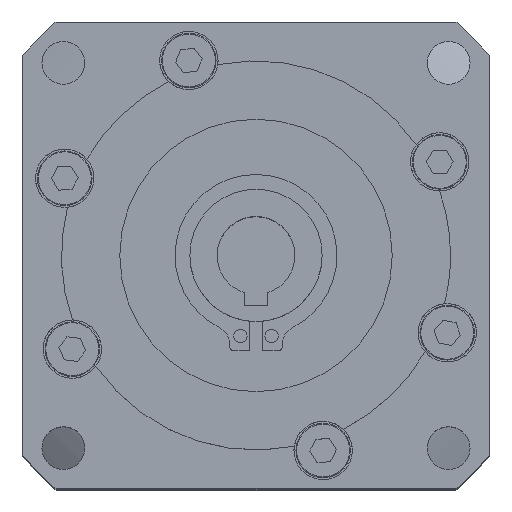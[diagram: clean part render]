
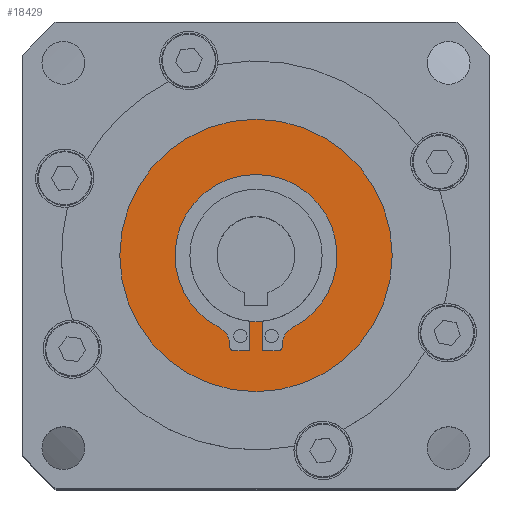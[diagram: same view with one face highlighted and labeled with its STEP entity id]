
A CAD part, top view. The second image highlights one B-rep face of the part: STEP entity #18429.
In plain terms, the highlighted planar face has unit normal (0, 0, 1).
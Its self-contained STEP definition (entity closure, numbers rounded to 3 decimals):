
#9 = ORIENTED_EDGE ( 'NONE', *, *, #8610, .F. ) ;
#18 = ORIENTED_EDGE ( 'NONE', *, *, #7783, .F. ) ;
#27 = DIRECTION ( 'NONE',  ( 0., 0., 1. ) ) ;
#68 = AXIS2_PLACEMENT_3D ( 'NONE', #1878, #12616, #3425 ) ;
#617 = VECTOR ( 'NONE', #19488, 1000. ) ;
#818 = DIRECTION ( 'NONE',  ( 0., 0., 1. ) ) ;
#985 = DIRECTION ( 'NONE',  ( 0., 0., 1. ) ) ;
#1069 = LINE ( 'NONE', #13361, #617 ) ;
#1102 = CARTESIAN_POINT ( 'NONE',  ( 0., 0., -1. ) ) ;
#1149 = VERTEX_POINT ( 'NONE', #12689 ) ;
#1567 = CIRCLE ( 'NONE', #19107, 0.5 ) ;
#1878 = CARTESIAN_POINT ( 'NONE',  ( 0., 0., -1. ) ) ;
#2373 = CARTESIAN_POINT ( 'NONE',  ( 5.85, -11.497, -1. ) ) ;
#2517 = AXIS2_PLACEMENT_3D ( 'NONE', #16343, #7184, #17911 ) ;
#2582 = CARTESIAN_POINT ( 'NONE',  ( -5.85, -11.497, -1. ) ) ;
#2653 = DIRECTION ( 'NONE',  ( 1., 0., 0. ) ) ;
#2786 = CARTESIAN_POINT ( 'NONE',  ( 0., -12.257, -1. ) ) ;
#3139 = VERTEX_POINT ( 'NONE', #6585 ) ;
#3402 = VERTEX_POINT ( 'NONE', #12701 ) ;
#3425 = DIRECTION ( 'NONE',  ( -1., 0., 0. ) ) ;
#3532 = EDGE_CURVE ( 'NONE', #1149, #15772, #12658, .T. ) ;
#3911 = DIRECTION ( 'NONE',  ( -1., 0., 0. ) ) ;
#3978 = ORIENTED_EDGE ( 'NONE', *, *, #15447, .F. ) ;
#4117 = DIRECTION ( 'NONE',  ( -1., 0., 0. ) ) ;
#4308 = AXIS2_PLACEMENT_3D ( 'NONE', #4531, #15261, #6060 ) ;
#4326 = DIRECTION ( 'NONE',  ( 1., 0., 0. ) ) ;
#4531 = CARTESIAN_POINT ( 'NONE',  ( 0., 0., -1. ) ) ;
#4656 = DIRECTION ( 'NONE',  ( 0., 1., 0. ) ) ;
#5046 = CARTESIAN_POINT ( 'NONE',  ( -2.85, -12.257, -1. ) ) ;
#5153 = CIRCLE ( 'NONE', #4308, 10.4 ) ;
#5351 = EDGE_CURVE ( 'NONE', #5693, #6674, #15469, .T. ) ;
#5693 = VERTEX_POINT ( 'NONE', #8606 ) ;
#5854 = LINE ( 'NONE', #9240, #17634 ) ;
#5874 = LINE ( 'NONE', #15083, #13564 ) ;
#5961 = ORIENTED_EDGE ( 'NONE', *, *, #16372, .F. ) ;
#6060 = DIRECTION ( 'NONE',  ( -1., 0., 0. ) ) ;
#6239 = CARTESIAN_POINT ( 'NONE',  ( 3.35, -11.757, -1. ) ) ;
#6282 = ORIENTED_EDGE ( 'NONE', *, *, #5351, .T. ) ;
#6407 = CARTESIAN_POINT ( 'NONE',  ( 3.35, -11.497, -1. ) ) ;
#6433 = ORIENTED_EDGE ( 'NONE', *, *, #7359, .F. ) ;
#6585 = CARTESIAN_POINT ( 'NONE',  ( 4.716, -9.269, -1. ) ) ;
#6674 = VERTEX_POINT ( 'NONE', #18399 ) ;
#6683 = CARTESIAN_POINT ( 'NONE',  ( -3.35, 0., -1. ) ) ;
#6903 = DIRECTION ( 'NONE',  ( 0., 0., 1. ) ) ;
#6918 = AXIS2_PLACEMENT_3D ( 'NONE', #16061, #6903, #17608 ) ;
#7135 = CARTESIAN_POINT ( 'NONE',  ( -0.85, -12.257, -1. ) ) ;
#7184 = DIRECTION ( 'NONE',  ( 0., 0., -1. ) ) ;
#7359 = EDGE_CURVE ( 'NONE', #14929, #17015, #10741, .T. ) ;
#7438 = DIRECTION ( 'NONE',  ( 1., 0., 0. ) ) ;
#7551 = LINE ( 'NONE', #2786, #15216 ) ;
#7678 = VERTEX_POINT ( 'NONE', #11802 ) ;
#7701 = CARTESIAN_POINT ( 'NONE',  ( -0.85, 0., -1. ) ) ;
#7783 = EDGE_CURVE ( 'NONE', #3402, #13556, #5874, .T. ) ;
#8077 = CARTESIAN_POINT ( 'NONE',  ( -10.4, 0., -1. ) ) ;
#8126 = CARTESIAN_POINT ( 'NONE',  ( -0.85, -8.457, -1. ) ) ;
#8200 = EDGE_CURVE ( 'NONE', #13556, #16885, #1567, .T. ) ;
#8323 = EDGE_CURVE ( 'NONE', #17015, #11086, #5153, .T. ) ;
#8477 = VERTEX_POINT ( 'NONE', #6407 ) ;
#8606 = CARTESIAN_POINT ( 'NONE',  ( -17.5, 0., -1. ) ) ;
#8610 = EDGE_CURVE ( 'NONE', #16885, #8477, #5854, .T. ) ;
#8639 = CARTESIAN_POINT ( 'NONE',  ( 2.85, -12.257, -1. ) ) ;
#8731 = DIRECTION ( 'NONE',  ( 0., 0., 1. ) ) ;
#8947 = ORIENTED_EDGE ( 'NONE', *, *, #19546, .F. ) ;
#9144 = CARTESIAN_POINT ( 'NONE',  ( -4.716, -9.269, -1. ) ) ;
#9239 = CARTESIAN_POINT ( 'NONE',  ( 0., 0., -1. ) ) ;
#9240 = CARTESIAN_POINT ( 'NONE',  ( 3.35, 0., -1. ) ) ;
#9335 = FACE_BOUND ( 'NONE', #16759, .T. ) ;
#9383 = CARTESIAN_POINT ( 'NONE',  ( 0.85, -8.457, -1. ) ) ;
#9430 = EDGE_CURVE ( 'NONE', #3139, #14929, #19775, .T. ) ;
#9629 = AXIS2_PLACEMENT_3D ( 'NONE', #1102, #11840, #2653 ) ;
#9644 = AXIS2_PLACEMENT_3D ( 'NONE', #2582, #13296, #4117 ) ;
#9818 = FACE_OUTER_BOUND ( 'NONE', #13134, .T. ) ;
#10007 = CARTESIAN_POINT ( 'NONE',  ( 10.4, 0., -1. ) ) ;
#10048 = CARTESIAN_POINT ( 'NONE',  ( -2.85, -11.757, -1. ) ) ;
#10214 = CARTESIAN_POINT ( 'NONE',  ( 0., 0., -1. ) ) ;
#10310 = AXIS2_PLACEMENT_3D ( 'NONE', #10214, #985, #11727 ) ;
#10363 = AXIS2_PLACEMENT_3D ( 'NONE', #2373, #13099, #3911 ) ;
#10741 = CIRCLE ( 'NONE', #17149, 10.4 ) ;
#10773 = DIRECTION ( 'NONE',  ( -1., 0., 0. ) ) ;
#11086 = VERTEX_POINT ( 'NONE', #9144 ) ;
#11570 = DIRECTION ( 'NONE',  ( -1., 0., 0. ) ) ;
#11727 = DIRECTION ( 'NONE',  ( 1., 0., 0. ) ) ;
#11802 = CARTESIAN_POINT ( 'NONE',  ( -3.35, -11.497, -1. ) ) ;
#11840 = DIRECTION ( 'NONE',  ( 0., 0., 1. ) ) ;
#12159 = ORIENTED_EDGE ( 'NONE', *, *, #8200, .F. ) ;
#12437 = VECTOR ( 'NONE', #17405, 1000. ) ;
#12477 = ORIENTED_EDGE ( 'NONE', *, *, #12553, .T. ) ;
#12553 = EDGE_CURVE ( 'NONE', #6674, #5693, #17171, .T. ) ;
#12616 = DIRECTION ( 'NONE',  ( 0., 0., 1. ) ) ;
#12658 = CIRCLE ( 'NONE', #15977, 0.5 ) ;
#12689 = CARTESIAN_POINT ( 'NONE',  ( -3.35, -11.757, -1. ) ) ;
#12701 = CARTESIAN_POINT ( 'NONE',  ( 0.85, -12.257, -1. ) ) ;
#12912 = LINE ( 'NONE', #6683, #12437 ) ;
#13053 = EDGE_CURVE ( 'NONE', #16305, #3402, #1069, .T. ) ;
#13099 = DIRECTION ( 'NONE',  ( 0., 0., -1. ) ) ;
#13134 = EDGE_LOOP ( 'NONE', ( #12477, #6282 ) ) ;
#13270 = PLANE ( 'NONE',  #2517 ) ;
#13296 = DIRECTION ( 'NONE',  ( 0., 0., -1. ) ) ;
#13361 = CARTESIAN_POINT ( 'NONE',  ( 0.85, 0., -1. ) ) ;
#13556 = VERTEX_POINT ( 'NONE', #8639 ) ;
#13564 = VECTOR ( 'NONE', #7438, 1000. ) ;
#13776 = VECTOR ( 'NONE', #4656, 1000. ) ;
#14554 = ORIENTED_EDGE ( 'NONE', *, *, #3532, .F. ) ;
#14681 = ORIENTED_EDGE ( 'NONE', *, *, #17893, .F. ) ;
#14808 = VERTEX_POINT ( 'NONE', #8126 ) ;
#14929 = VERTEX_POINT ( 'NONE', #10007 ) ;
#15083 = CARTESIAN_POINT ( 'NONE',  ( 0., -12.257, -1. ) ) ;
#15216 = VECTOR ( 'NONE', #4326, 1000. ) ;
#15261 = DIRECTION ( 'NONE',  ( 0., 0., 1. ) ) ;
#15334 = ORIENTED_EDGE ( 'NONE', *, *, #16532, .F. ) ;
#15447 = EDGE_CURVE ( 'NONE', #15772, #16014, #7551, .T. ) ;
#15469 = CIRCLE ( 'NONE', #9629, 17.5 ) ;
#15591 = EDGE_CURVE ( 'NONE', #16014, #14808, #18349, .T. ) ;
#15772 = VERTEX_POINT ( 'NONE', #5046 ) ;
#15898 = CIRCLE ( 'NONE', #10363, 2.5 ) ;
#15977 = AXIS2_PLACEMENT_3D ( 'NONE', #10048, #818, #11570 ) ;
#16014 = VERTEX_POINT ( 'NONE', #7135 ) ;
#16061 = CARTESIAN_POINT ( 'NONE',  ( 0., 0., -1. ) ) ;
#16305 = VERTEX_POINT ( 'NONE', #9383 ) ;
#16343 = CARTESIAN_POINT ( 'NONE',  ( 0., 0., -1. ) ) ;
#16372 = EDGE_CURVE ( 'NONE', #14808, #16305, #17358, .T. ) ;
#16532 = EDGE_CURVE ( 'NONE', #8477, #3139, #15898, .T. ) ;
#16759 = EDGE_LOOP ( 'NONE', ( #14554, #14681, #8947, #19473, #6433, #18609, #15334, #9, #12159, #18, #17966, #5961, #18033, #3978 ) ) ;
#16837 = DIRECTION ( 'NONE',  ( 0., 1., 0. ) ) ;
#16885 = VERTEX_POINT ( 'NONE', #6239 ) ;
#17015 = VERTEX_POINT ( 'NONE', #8077 ) ;
#17149 = AXIS2_PLACEMENT_3D ( 'NONE', #9239, #27, #10773 ) ;
#17171 = CIRCLE ( 'NONE', #10310, 17.5 ) ;
#17358 = CIRCLE ( 'NONE', #68, 8.5 ) ;
#17405 = DIRECTION ( 'NONE',  ( 0., -1., 0. ) ) ;
#17608 = DIRECTION ( 'NONE',  ( -1., 0., 0. ) ) ;
#17634 = VECTOR ( 'NONE', #16837, 1000. ) ;
#17882 = CARTESIAN_POINT ( 'NONE',  ( 2.85, -11.757, -1. ) ) ;
#17893 = EDGE_CURVE ( 'NONE', #7678, #1149, #12912, .T. ) ;
#17911 = DIRECTION ( 'NONE',  ( -1., 0., 0. ) ) ;
#17966 = ORIENTED_EDGE ( 'NONE', *, *, #13053, .F. ) ;
#18033 = ORIENTED_EDGE ( 'NONE', *, *, #15591, .F. ) ;
#18349 = LINE ( 'NONE', #7701, #13776 ) ;
#18399 = CARTESIAN_POINT ( 'NONE',  ( 17.5, 0., -1. ) ) ;
#18429 = ADVANCED_FACE ( 'NONE', ( #9818, #9335 ), #13270, .F. ) ;
#18609 = ORIENTED_EDGE ( 'NONE', *, *, #9430, .F. ) ;
#18866 = CIRCLE ( 'NONE', #9644, 2.5 ) ;
#19107 = AXIS2_PLACEMENT_3D ( 'NONE', #17882, #8731, #19444 ) ;
#19444 = DIRECTION ( 'NONE',  ( -1., 0., 0. ) ) ;
#19473 = ORIENTED_EDGE ( 'NONE', *, *, #8323, .F. ) ;
#19488 = DIRECTION ( 'NONE',  ( 0., -1., 0. ) ) ;
#19546 = EDGE_CURVE ( 'NONE', #11086, #7678, #18866, .T. ) ;
#19775 = CIRCLE ( 'NONE', #6918, 10.4 ) ;
